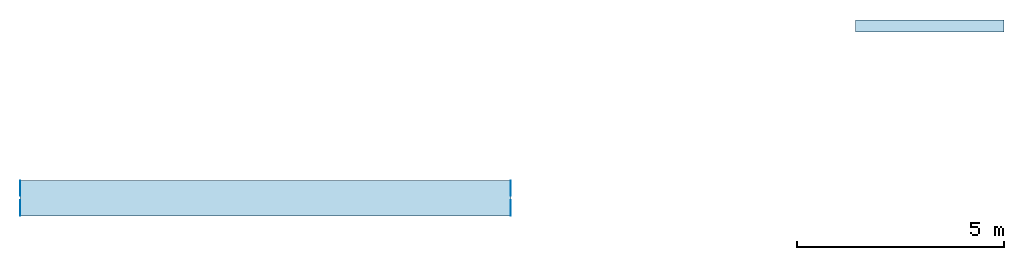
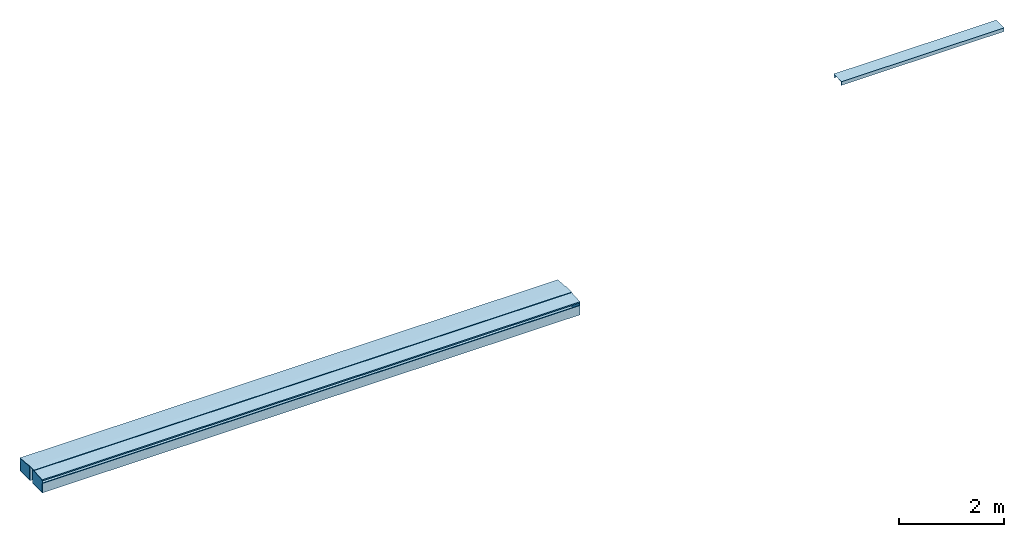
# One storey: 4 slabs, 4 elements without a shape of their own.
"""IFC2X3 building model written with IfcOpenShell, lengths in metres."""

from ifc_helpers import new_model, entity, si_unit, converted_unit, derived_unit, direction, frame, origin, place, context, subcontext, project, spatial, polyline, outline, extrude, material, element, aggregate, save


model = new_model("IFC2X3")

# Units and contexts
model_context = context("Model", 3, precision=1e-05, world=origin(), true_north=direction((6.12303176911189e-17, 1.0)))
body_context = subcontext(model_context, "Body", "Model", "MODEL_VIEW")
ifc_project = project(units=[si_unit("LENGTHUNIT", "METRE"), si_unit("AREAUNIT", "SQUARE_METRE"), si_unit("VOLUMEUNIT", "CUBIC_METRE"), converted_unit("PLANEANGLEUNIT", "DEGREE", entity("IfcRatioMeasure", 0.0174532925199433), si_unit("PLANEANGLEUNIT", "RADIAN"), dimensions=[0, 0, 0, 0, 0, 0, 0]), si_unit("MASSUNIT", "GRAM", prefix="KILO"), derived_unit("MASSDENSITYUNIT", [(si_unit("MASSUNIT", "GRAM", prefix="KILO"), 1), (si_unit("LENGTHUNIT", "METRE"), -3)]), si_unit("TIMEUNIT", "SECOND"), si_unit("FREQUENCYUNIT", "HERTZ"), si_unit("THERMODYNAMICTEMPERATUREUNIT", "DEGREE_CELSIUS"), derived_unit("THERMALTRANSMITTANCEUNIT", [(si_unit("MASSUNIT", "GRAM", prefix="KILO"), 1), (si_unit("THERMODYNAMICTEMPERATUREUNIT", "KELVIN"), -1), (si_unit("TIMEUNIT", "SECOND"), -3)]), derived_unit("VOLUMETRICFLOWRATEUNIT", [(si_unit("LENGTHUNIT", "METRE"), 3), (si_unit("TIMEUNIT", "SECOND"), -1)]), si_unit("ELECTRICCURRENTUNIT", "AMPERE"), si_unit("ELECTRICVOLTAGEUNIT", "VOLT"), si_unit("POWERUNIT", "WATT"), si_unit("FORCEUNIT", "NEWTON", prefix="KILO"), si_unit("ILLUMINANCEUNIT", "LUX"), si_unit("LUMINOUSFLUXUNIT", "LUMEN"), si_unit("LUMINOUSINTENSITYUNIT", "CANDELA"), derived_unit("USERDEFINED", [(si_unit("MASSUNIT", "GRAM", prefix="KILO"), -1), (si_unit("LENGTHUNIT", "METRE"), -2), (si_unit("TIMEUNIT", "SECOND"), 3), (si_unit("LUMINOUSFLUXUNIT", "LUMEN"), 1)]), derived_unit("LINEARVELOCITYUNIT", [(si_unit("LENGTHUNIT", "METRE"), 1), (si_unit("TIMEUNIT", "SECOND"), -1)]), si_unit("PRESSUREUNIT", "PASCAL"), derived_unit("USERDEFINED", [(si_unit("LENGTHUNIT", "METRE"), -2), (si_unit("MASSUNIT", "GRAM", prefix="KILO"), 1), (si_unit("TIMEUNIT", "SECOND"), -2)])], contexts=[model_context])

# Site, building, storey
site_placement = place(None, origin())
site = spatial("IfcSite", under=ifc_project, at=site_placement, Name="Surface", CompositionType="ELEMENT")
building_placement = place(site_placement, origin())
building = spatial("IfcBuilding", under=site, at=building_placement, Name="ExPREF", CompositionType="ELEMENT")
storey_placement = place(building_placement, frame((0.0, 0.0, 11.05)))
storey = spatial("IfcBuildingStorey", under=building, at=storey_placement, Name="Toiture", CompositionType="ELEMENT", Elevation=11.05)

# Roof, slab
ifc_material = material(Name="AA-Aluminium")
roof_1_placement = place(storey_placement, frame((25.5597436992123, -189.632099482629, 0.367843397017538)))
roof_1 = element("IfcRoof", 1, at=roof_1_placement, inside=storey, material=ifc_material, Name="coffre toile rétractable:coffre toile rétractable", ObjectType="coffre toile rétractable:coffre toile rétractable", ShapeType="NOTDEFINED")
slab_1_placement = place(storey_placement, frame((25.5597436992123, -189.632099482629, 0.367843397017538)))
slab_1 = element("IfcSlab", 2, at=slab_1_placement, material=ifc_material, Name="coffre toile rétractable:coffre toile rétractable:1", ObjectType="coffre toile rétractable:coffre toile rétractable", PredefinedType="ROOF", context=body_context, shape_type="SweptSolid", body=[
    extrude(outline(polyline([(-0.407613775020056, -0.105739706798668), (-0.408841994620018, -0.0882828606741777), (-0.418817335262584, -0.0889847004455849), (-0.416934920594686, -0.115739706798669), (-0.0981119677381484, -0.11573970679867), (-0.0974083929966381, -0.125739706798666), (0.0088467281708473, -0.125739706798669), (0.114055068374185, -0.110861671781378), (0.113351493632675, -0.100861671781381), (0.429033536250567, -0.0562195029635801), (0.427151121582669, -0.0294644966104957), (0.417175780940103, -0.0301663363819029), (0.418404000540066, -0.0476231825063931), (0.0620323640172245, -0.0980194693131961), (0.040324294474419, 0.210520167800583), (0.39846880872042, 0.235718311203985), (0.413138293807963, 0.0272189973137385), (0.423113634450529, 0.0279208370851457), (0.407742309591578, 0.24639549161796), (0.0296471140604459, 0.219793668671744), (0.052809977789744, -0.109423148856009), (0.00814315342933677, -0.115739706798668), (-0.0369680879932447, -0.115739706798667), (-0.0601309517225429, 0.213477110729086), (-0.438226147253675, 0.186875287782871), (-0.422854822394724, -0.0315993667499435), (-0.412879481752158, -0.0308975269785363), (-0.427548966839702, 0.17760178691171), (-0.0694044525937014, 0.202799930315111), (-0.0476963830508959, -0.105739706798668), (-0.407613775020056, -0.105739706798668)])), frame((0.0, 0.424029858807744, 0.217170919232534), z_axis=(-1.0, 0.0, 0.0), x_axis=(0.0, 0.99753406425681, 0.0701839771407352)), (0.0, 0.0, -1.0), 11.8329996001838),
])
aggregate(roof_1, [slab_1])

roof_2_placement = place(storey_placement, frame((37.383982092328, -189.632099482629, 0.377843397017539)))
roof_2 = element("IfcRoof", 3, at=roof_2_placement, inside=storey, material=ifc_material, Name="coffre toile rétractable1:coffre toile rétractable", ObjectType="coffre toile rétractable1:coffre toile rétractable", ShapeType="NOTDEFINED")
slab_2_placement = place(storey_placement, frame((37.383982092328, -189.632099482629, 0.377843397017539)))
slab_2 = element("IfcSlab", 4, at=slab_2_placement, material=ifc_material, Name="coffre toile rétractable1:coffre toile rétractable:1", ObjectType="coffre toile rétractable1:coffre toile rétractable", PredefinedType="ROOF", context=body_context, shape_type="SweptSolid", body=[
    extrude(outline(polyline([(-0.0909847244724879, 0.0872574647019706), (-0.116245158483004, -0.271772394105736), (0.193057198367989, -0.271772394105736), (0.193057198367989, 0.0872574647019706), (-0.0159575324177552, 0.0872574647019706), (-0.0159575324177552, 0.0972574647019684), (-0.0734847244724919, 0.0972574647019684), (-0.0734847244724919, 0.0872574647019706), (-0.0909847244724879, 0.0872574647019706)])), frame((0.0, 0.0972574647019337, 0.193057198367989), z_axis=(-1.0, 0.0, 0.0), x_axis=(0.0, 0.0, -1.0)), (0.0, 0.0, -1.0), 0.00876120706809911),
    extrude(outline(polyline([(-0.0806566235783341, -0.096884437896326), (0.279260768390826, -0.096884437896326), (0.25755269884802, 0.211655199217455), (-0.100591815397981, 0.186457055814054), (-0.085922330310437, -0.0220422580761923), (-0.0958976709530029, -0.0227440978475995), (-0.0918601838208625, -0.080129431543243), (-0.0818848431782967, -0.0794275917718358), (-0.0806566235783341, -0.096884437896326)])), frame((0.0, 0.750802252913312, 0.193057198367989), z_axis=(1.0, 0.0, 0.0), x_axis=(0.0, -0.99753406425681, 0.0701839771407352)), (0.0, 0.0, 1.0), 0.00876120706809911),
])
aggregate(roof_2, [slab_2])

roof_3_placement = place(storey_placement, frame((25.5597436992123, -189.632099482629, 0.377843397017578)))
roof_3 = element("IfcRoof", 5, at=roof_3_placement, inside=storey, material=ifc_material, Name="coffre toile rétractable2:coffre toile rétractable", ObjectType="coffre toile rétractable2:coffre toile rétractable", ShapeType="NOTDEFINED")
slab_3_placement = place(storey_placement, frame((25.5597436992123, -189.632099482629, 0.377843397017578)))
slab_3 = element("IfcSlab", 6, at=slab_3_placement, material=ifc_material, Name="coffre toile rétractable2:coffre toile rétractable:1", ObjectType="coffre toile rétractable2:coffre toile rétractable", PredefinedType="ROOF", context=body_context, shape_type="SweptSolid", body=[
    extrude(outline(polyline([(-0.0909847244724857, 0.0872574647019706), (-0.116245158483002, -0.271772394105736), (0.193057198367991, -0.271772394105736), (0.193057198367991, 0.0872574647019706), (-0.015957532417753, 0.0872574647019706), (-0.015957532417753, 0.0972574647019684), (-0.0734847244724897, 0.0972574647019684), (-0.0734847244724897, 0.0872574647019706), (-0.0909847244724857, 0.0872574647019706)])), frame((0.0, 0.0972574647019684, 0.193057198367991), z_axis=(-1.0, 0.0, 0.0), x_axis=(0.0, 0.0, -1.0)), (0.0, 0.0, -1.0), 0.00876120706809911),
    extrude(outline(polyline([(-0.0806566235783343, -0.0968844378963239), (0.279260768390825, -0.0968844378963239), (0.25755269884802, 0.211655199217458), (-0.100591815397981, 0.186457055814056), (-0.0859223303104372, -0.0220422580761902), (-0.095897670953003, -0.0227440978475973), (-0.0918601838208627, -0.0801294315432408), (-0.0818848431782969, -0.0794275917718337), (-0.0806566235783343, -0.0968844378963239)])), frame((0.0, 0.750802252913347, 0.193057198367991), z_axis=(1.0, 0.0, 0.0), x_axis=(0.0, -0.99753406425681, 0.0701839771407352)), (0.0, 0.0, 1.0), 0.00876120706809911),
])
aggregate(roof_3, [slab_3])

roof_4_placement = place(storey_placement, frame((45.6997436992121, -185.200291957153, 0.109061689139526)))
roof_4 = element("IfcRoof", 7, at=roof_4_placement, inside=storey, material=ifc_material, Name="couvertine25:couvertine", ObjectType="couvertine25:couvertine", ShapeType="NOTDEFINED")
slab_4_placement = place(storey_placement, frame((45.6997436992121, -185.200291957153, 0.109061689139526)))
slab_4 = element("IfcSlab", 8, at=slab_4_placement, material=ifc_material, Name="couvertine25:couvertine:1", ObjectType="couvertine25:couvertine", PredefinedType="ROOF", context=body_context, shape_type="SweptSolid", body=[
    extrude(outline(polyline([(-0.0501942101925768, -0.143660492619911), (0.0339161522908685, -0.143660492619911), (0.0244758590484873, -0.134220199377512), (0.0223545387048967, -0.136341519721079), (0.0266735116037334, -0.140660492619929), (-0.0472971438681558, -0.140660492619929), (-0.0571210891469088, 0.140660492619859), (0.0266735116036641, 0.140660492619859), (0.0223545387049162, 0.136341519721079), (0.0244758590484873, 0.134220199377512), (0.0339161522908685, 0.143660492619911), (-0.0602276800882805, 0.143660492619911), (-0.0501942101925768, -0.143660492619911)])), frame((0.0, 0.14366049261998, 0.0339161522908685), z_axis=(1.0, 0.0, 0.0), x_axis=(0.0, 0.0, -1.0)), (0.0, 0.0, 1.0), 3.57999999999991),
])
aggregate(roof_4, [slab_4])

save(model, "model.ifc")
